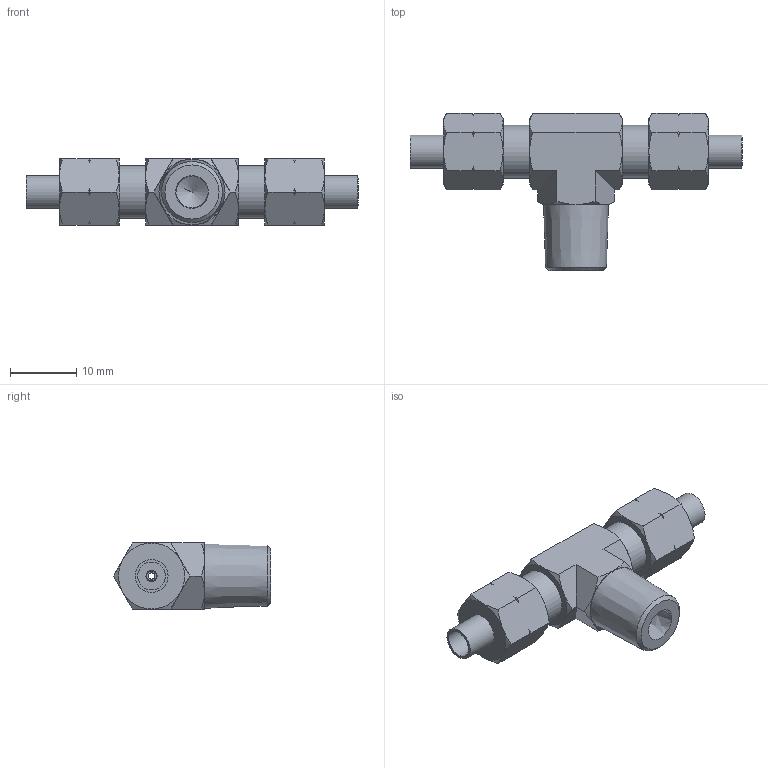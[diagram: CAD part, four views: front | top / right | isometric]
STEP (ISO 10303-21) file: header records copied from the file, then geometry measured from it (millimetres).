
FILE_DESCRIPTION((''),'2;1');
FILE_NAME('D:\INVENTOR\[New Inventor]\CDC Products 3D Ass''y\Two-Touch Fittings\Metric\CT\CT4-2--01.stp','2009-02-23T16:34:29',('Microsoft'),(''),'Autodesk Inventor 2008','Autodesk Inventor 2008','');
FILE_SCHEMA(('AUTOMOTIVE_DESIGN { 1 0 10303 214 1 1 1 1 }'));
Length unit declared in the file: millimetre
Products named in the file (1): CT4-2--01
Bounding box: 50.21 x 23.77 x 10 mm (x, y, z)
Volume: 3608.6 mm3; surface area: 3035.4 mm2
Topology: 1 solids, 1 shells, 120 faces, 277 edges, 168 vertices
Faces by surface type: cone 68, plane 36, bspline 8, cylinder 7, torus 1
Full cylindrical faces by diameter (mm): 1 x1, 1.7 x1, 4.2 x1, 5 x2, 8 x2
Entity records: 3306 total; most frequent: CARTESIAN_POINT 1019, ORIENTED_EDGE 514, DIRECTION 429, EDGE_CURVE 257, AXIS2_PLACEMENT_3D 193, VERTEX_POINT 164, EDGE_LOOP 149, FACE_OUTER_BOUND 120
